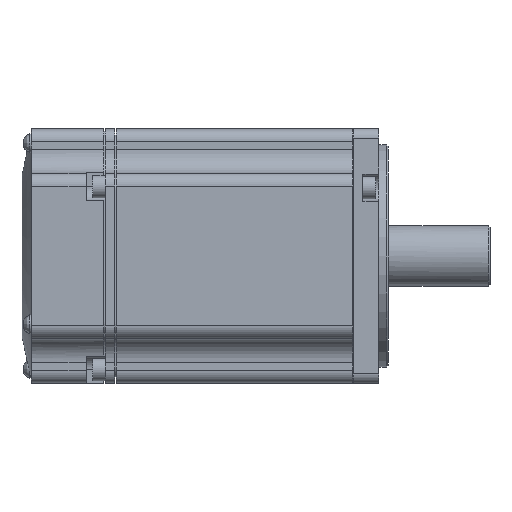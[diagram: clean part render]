
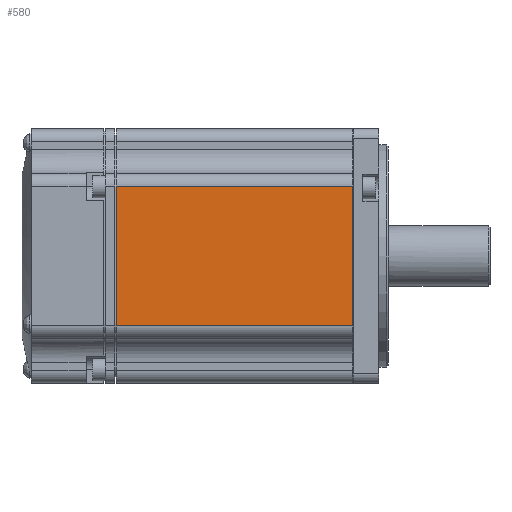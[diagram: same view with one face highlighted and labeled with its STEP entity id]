
A CAD part, front view. The second image highlights one B-rep face of the part: STEP entity #580.
In plain terms, the highlighted planar face has unit normal (0, -1, 0).
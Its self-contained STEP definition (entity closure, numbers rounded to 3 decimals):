
#580 = ADVANCED_FACE( '', ( #1572 ), #1573, .F. );
#1572 = FACE_OUTER_BOUND( '', #3250, .T. );
#1573 = PLANE( '', #3251 );
#3250 = EDGE_LOOP( '', ( #6332, #6333, #6334, #6335 ) );
#3251 = AXIS2_PLACEMENT_3D( '', #6336, #6337, #6338 );
#6332 = ORIENTED_EDGE( '', *, *, #10565, .F. );
#6333 = ORIENTED_EDGE( '', *, *, #10126, .T. );
#6334 = ORIENTED_EDGE( '', *, *, #10595, .T. );
#6335 = ORIENTED_EDGE( '', *, *, #10195, .F. );
#6336 = CARTESIAN_POINT( '', ( 8., -40., 37. ) );
#6337 = DIRECTION( '', ( 0., 1., 0. ) );
#6338 = DIRECTION( '', ( 0., 0., 1. ) );
#10126 = EDGE_CURVE( '', #11967, #11965, #11968, .T. );
#10195 = EDGE_CURVE( '', #12076, #12078, #12079, .T. );
#10565 = EDGE_CURVE( '', #11967, #12076, #12706, .T. );
#10595 = EDGE_CURVE( '', #11965, #12078, #12736, .T. );
#11965 = VERTEX_POINT( '', #14993 );
#11967 = VERTEX_POINT( '', #14995 );
#11968 = LINE( '', #14996, #14997 );
#12076 = VERTEX_POINT( '', #15151 );
#12078 = VERTEX_POINT( '', #15153 );
#12079 = LINE( '', #15154, #15155 );
#12706 = LINE( '', #16016, #16017 );
#12736 = LINE( '', #16076, #16077 );
#14993 = CARTESIAN_POINT( '', ( -74.5, -40., -22. ) );
#14995 = CARTESIAN_POINT( '', ( -74.5, -40., 22. ) );
#14996 = CARTESIAN_POINT( '', ( -74.5, -40., 37. ) );
#14997 = VECTOR( '', #19155, 1000. );
#15151 = CARTESIAN_POINT( '', ( -0.1, -40., 22. ) );
#15153 = CARTESIAN_POINT( '', ( -0.1, -40., -22. ) );
#15154 = CARTESIAN_POINT( '', ( -0.1, -40., 37. ) );
#15155 = VECTOR( '', #19268, 1000. );
#16016 = CARTESIAN_POINT( '', ( -78., -40., 22. ) );
#16017 = VECTOR( '', #19905, 1000. );
#16076 = CARTESIAN_POINT( '', ( -78., -40., -22. ) );
#16077 = VECTOR( '', #19935, 1000. );
#19155 = DIRECTION( '', ( 0., 0., -1. ) );
#19268 = DIRECTION( '', ( 0., 0., -1. ) );
#19905 = DIRECTION( '', ( 1., 0., 0. ) );
#19935 = DIRECTION( '', ( 1., 0., 0. ) );
